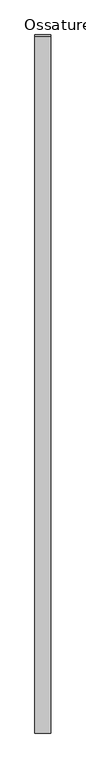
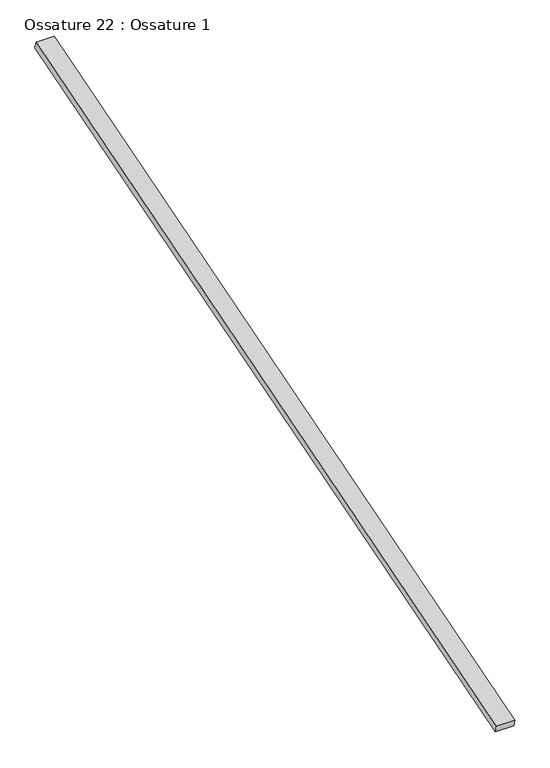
"""IFC4 building model written with IfcOpenShell, lengths in millimetres: beam geometry, Ossature 22 : Ossature 1."""

from ifc_helpers import new_model, si_unit, frame, origin, place, context, project, spatial, polyline, outline, extrude, source, transform, mapped, element, save


def ossature_22_ossature_1_52925247(model_context):
    return source(origin(), model_context, "Body", "SweptSolid", [
        extrude(outline(polyline([(0.0, 0.0), (0.0, -4543.0299679), (-100.0, -4543.0299679), (-100.0, 0.0), (0.0, 0.0)])), frame((5547.2466393, -833.3913565, 8153.6336115), z_axis=(0.0, -0.28734788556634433, 0.9578262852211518), x_axis=(-1.0, 0.0, 0.0)), (0.0, 0.0, 1.0), 40.0),
    ])


if __name__ == "__main__":
    model = new_model("IFC4")
    model_context = context("Model", 3, world=origin())
    ifc_project = project(units=[si_unit("LENGTHUNIT", "METRE", prefix="MILLI")], contexts=[model_context])
    site = spatial("IfcSite", under=ifc_project)
    building = spatial("IfcBuilding", under=site)
    placement = place(None, origin())
    ossature_22_ossature_1_shape = ossature_22_ossature_1_52925247(model_context)
    element("IfcBeam", 1, ObjectType="Ossature 22 : Ossature 1", at=placement, inside=building, context=model_context, shape_type="MappedRepresentation", body=[
        mapped(ossature_22_ossature_1_shape, transform((0.0, 0.0, 0.0), x_axis=(1.0, 0.0, 0.0), y_axis=(0.0, 1.0, 0.0), z_axis=(0.0, 0.0, 1.0))),
    ])
    save(model, "model.ifc")
